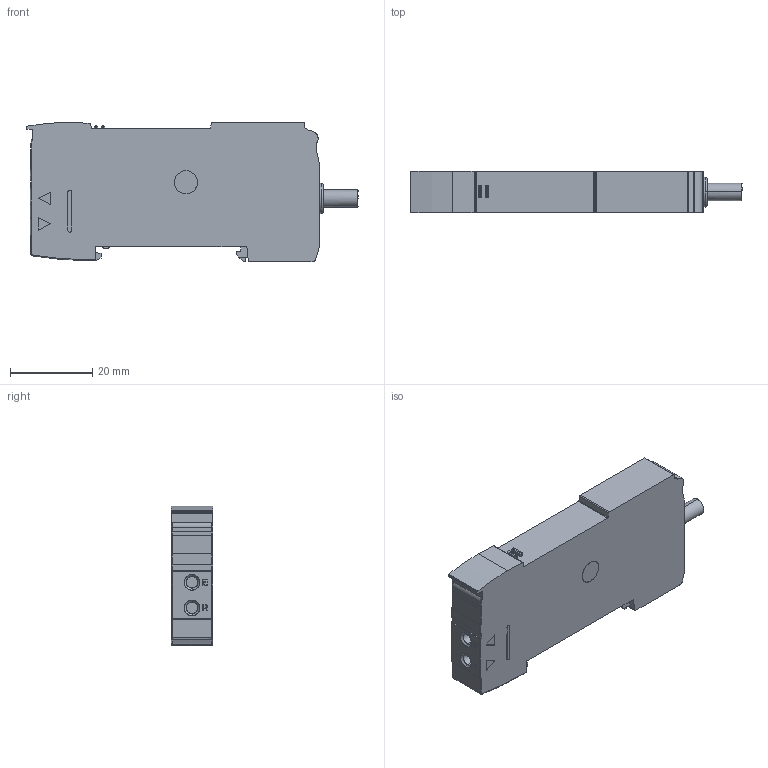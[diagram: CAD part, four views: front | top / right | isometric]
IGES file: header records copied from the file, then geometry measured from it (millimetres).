
Start section: Comment
Global section: file name: FVDK 10P67Y0.igs; native system:  By Spatial Corp.; preprocessor: XPlus GENERIC/IGES 3.0; author: Author; organization: Title; date: 20060922.135005; units: millimetre
Bounding box: 80.56 x 10 x 33.85 mm (x, y, z)
Surface area: 6853.2 mm2 (no closed solid volume)
Topology: 0 solids, 0 shells, 205 faces, 1110 edges, 1110 vertices
Faces by surface type: bspline 205
